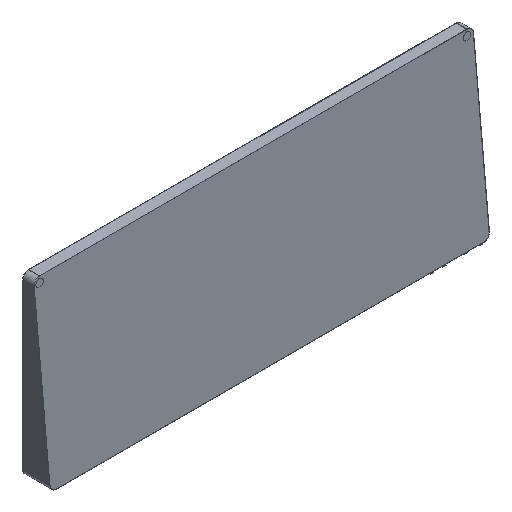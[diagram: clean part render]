
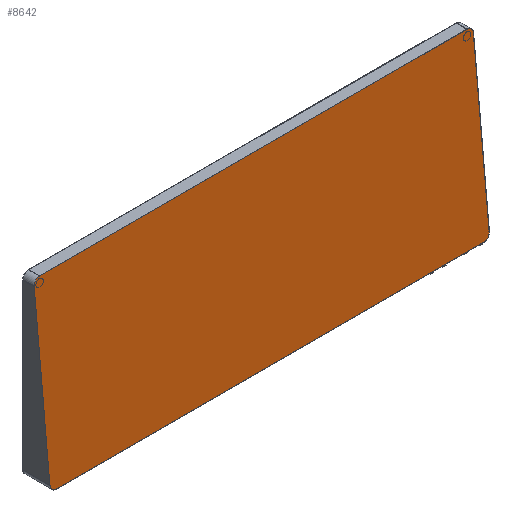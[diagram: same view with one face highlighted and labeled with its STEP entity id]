
A CAD part, isometric view. The second image highlights one B-rep face of the part: STEP entity #8642.
In plain terms, the highlighted planar face has unit normal (0, -0.995, 0.096).
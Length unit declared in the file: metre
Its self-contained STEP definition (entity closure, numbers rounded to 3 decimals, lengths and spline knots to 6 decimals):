
#37=ELLIPSE('',#10684,0.005023,0.005);
#38=ELLIPSE('',#10685,0.005023,0.005);
#39=ELLIPSE('',#10686,0.005023,0.005);
#40=ELLIPSE('',#10687,0.005023,0.005);
#895=ORIENTED_EDGE('',*,*,#3289,.T.);
#896=ORIENTED_EDGE('',*,*,#3290,.T.);
#897=ORIENTED_EDGE('',*,*,#3291,.T.);
#898=ORIENTED_EDGE('',*,*,#3292,.T.);
#899=ORIENTED_EDGE('',*,*,#3197,.F.);
#900=ORIENTED_EDGE('',*,*,#3293,.T.);
#901=ORIENTED_EDGE('',*,*,#3294,.F.);
#902=ORIENTED_EDGE('',*,*,#3295,.T.);
#3197=EDGE_CURVE('',#4398,#4399,#5192,.T.);
#3289=EDGE_CURVE('',#4485,#4486,#5283,.T.);
#3290=EDGE_CURVE('',#4486,#4487,#37,.F.);
#3291=EDGE_CURVE('',#4487,#4488,#5284,.T.);
#3292=EDGE_CURVE('',#4488,#4399,#38,.F.);
#3293=EDGE_CURVE('',#4398,#4489,#39,.F.);
#3294=EDGE_CURVE('',#4490,#4489,#5285,.T.);
#3295=EDGE_CURVE('',#4490,#4485,#40,.F.);
#4398=VERTEX_POINT('',#14225);
#4399=VERTEX_POINT('',#14227);
#4485=VERTEX_POINT('',#14410);
#4486=VERTEX_POINT('',#14411);
#4487=VERTEX_POINT('',#14413);
#4488=VERTEX_POINT('',#14415);
#4489=VERTEX_POINT('',#14418);
#4490=VERTEX_POINT('',#14420);
#5192=LINE('',#14226,#6113);
#5283=LINE('',#14409,#6204);
#5284=LINE('',#14414,#6205);
#5285=LINE('',#14419,#6206);
#6113=VECTOR('',#11588,1.);
#6204=VECTOR('',#11691,1.);
#6205=VECTOR('',#11694,1.);
#6206=VECTOR('',#11699,1.);
#6995=EDGE_LOOP('',(#895,#896,#897,#898,#899,#900,#901,#902));
#7654=FACE_BOUND('',#6995,.T.);
#8266=PLANE('',#10683);
#8642=ADVANCED_FACE('',(#7654),#8266,.F.);
#10683=AXIS2_PLACEMENT_3D('',#14408,#11689,#11690);
#10684=AXIS2_PLACEMENT_3D('',#14412,#11692,#11693);
#10685=AXIS2_PLACEMENT_3D('',#14416,#11695,#11696);
#10686=AXIS2_PLACEMENT_3D('',#14417,#11697,#11698);
#10687=AXIS2_PLACEMENT_3D('',#14421,#11700,#11701);
#11588=DIRECTION('',(-1.,0.,0.));
#11689=DIRECTION('',(0.,0.995,-0.095));
#11690=DIRECTION('',(0.,0.095,0.995));
#11691=DIRECTION('',(-1.,0.,0.));
#11692=DIRECTION('',(0.,0.995,-0.095));
#11693=DIRECTION('',(0.,-0.095,-0.995));
#11694=DIRECTION('',(0.,-0.095,-0.995));
#11695=DIRECTION('',(0.,0.995,-0.095));
#11696=DIRECTION('',(0.,0.095,0.995));
#11697=DIRECTION('',(0.,0.995,-0.095));
#11698=DIRECTION('',(0.,-0.095,-0.995));
#11699=DIRECTION('',(0.,-0.095,-0.995));
#11700=DIRECTION('',(0.,0.995,-0.095));
#11701=DIRECTION('',(0.,0.095,0.995));
#14225=CARTESIAN_POINT('',(0.177,-0.014121,-0.073));
#14226=CARTESIAN_POINT('',(0.182,-0.014121,-0.073));
#14227=CARTESIAN_POINT('',(-0.177,-0.014121,-0.073));
#14408=CARTESIAN_POINT('',(0.182,-0.007121,0.));
#14409=CARTESIAN_POINT('',(0.182,-0.000121,0.073));
#14410=CARTESIAN_POINT('',(0.177,-0.000121,0.073));
#14411=CARTESIAN_POINT('',(-0.177,-0.000121,0.073));
#14412=CARTESIAN_POINT('',(-0.177,-0.000601,0.068));
#14413=CARTESIAN_POINT('',(-0.182,-0.000601,0.068));
#14414=CARTESIAN_POINT('',(-0.182,-0.007121,0.));
#14415=CARTESIAN_POINT('',(-0.182,-0.013642,-0.068));
#14416=CARTESIAN_POINT('',(-0.177,-0.013642,-0.068));
#14417=CARTESIAN_POINT('',(0.177,-0.013642,-0.068));
#14418=CARTESIAN_POINT('',(0.182,-0.013642,-0.068));
#14419=CARTESIAN_POINT('',(0.182,-0.007121,0.));
#14420=CARTESIAN_POINT('',(0.182,-0.000601,0.068));
#14421=CARTESIAN_POINT('',(0.177,-0.000601,0.068));
